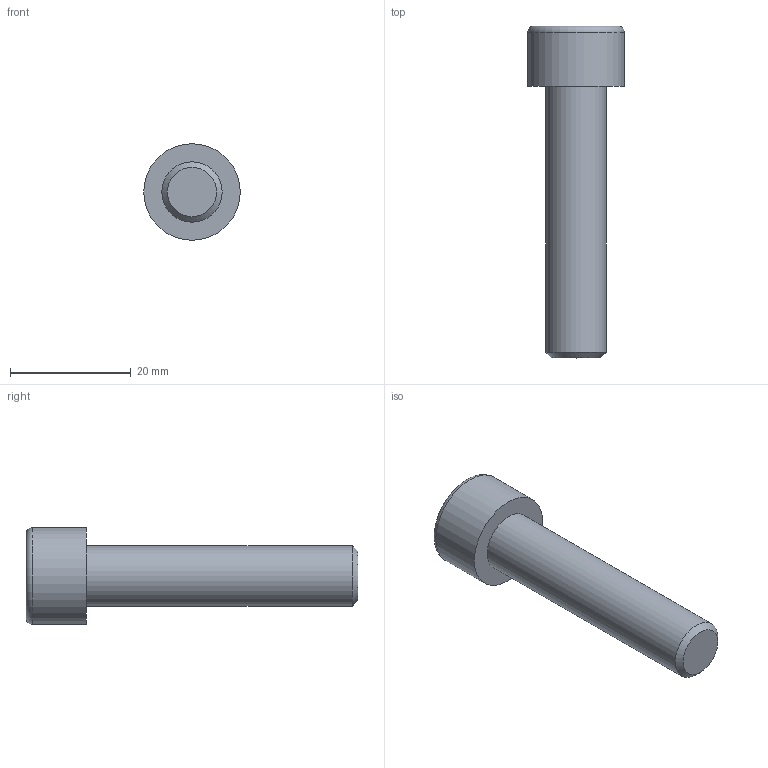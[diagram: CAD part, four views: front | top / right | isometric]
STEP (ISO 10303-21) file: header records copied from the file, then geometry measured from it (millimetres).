
FILE_DESCRIPTION(/* description */ (''),/* implementation_level */ '2;1');
FILE_NAME(/* name */ 'C:\Users\D\Documents\Inventor\各種小物\JIS\JIS B 1176 六角穴付きボルト\M10x45.stp',/* time_stamp */ '2022-05-09T18:52:12+09:00',/* author */ ('D'),/* organization */ (''),/* preprocessor_version */ 'ST-DEVELOPER v18',/* originating_system */ 'Autodesk Inventor 2020',/* authorisation */ '');
FILE_SCHEMA (('AUTOMOTIVE_DESIGN { 1 0 10303 214 3 1 1 }'));
Length unit declared in the file: millimetre
Products named in the file (1): M1.6x2.5
Bounding box: 16 x 55 x 16 mm (x, y, z)
Volume: 5186.9 mm3; surface area: 2432.1 mm2
Topology: 1 solids, 1 shells, 14 faces, 33 edges, 22 vertices
Faces by surface type: plane 9, cone 2, cylinder 2, torus 1
Full cylindrical faces by diameter (mm): 10 x1, 16 x1
Entity records: 435 total; most frequent: CARTESIAN_POINT 83, ORIENTED_EDGE 64, DIRECTION 64, EDGE_CURVE 32, AXIS2_PLACEMENT_3D 24, VERTEX_POINT 22, EDGE_LOOP 16, LINE 16
